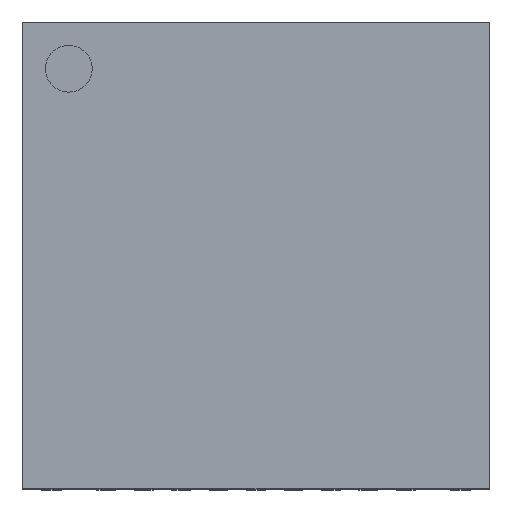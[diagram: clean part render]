
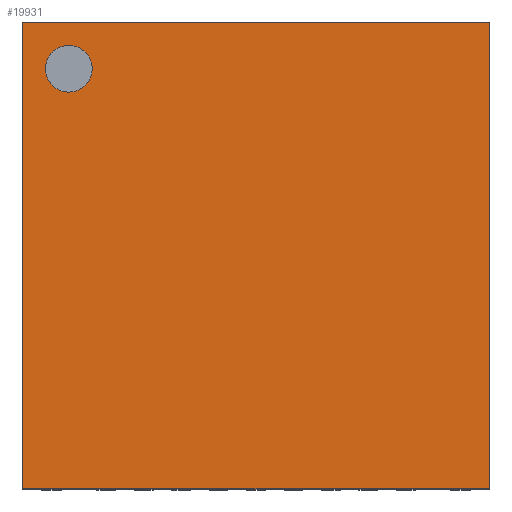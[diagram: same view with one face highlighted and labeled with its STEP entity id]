
A CAD part, top view. The second image highlights one B-rep face of the part: STEP entity #19931.
In plain terms, the highlighted planar face has unit normal (0, 0, 1).
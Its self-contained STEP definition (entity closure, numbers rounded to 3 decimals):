
#19819 = VERTEX_POINT('',#19820);
#19820 = CARTESIAN_POINT('',(0.01,4.99,0.55));
#19826 = EDGE_CURVE('',#19819,#19827,#19829,.T.);
#19827 = VERTEX_POINT('',#19828);
#19828 = CARTESIAN_POINT('',(4.99,4.99,0.55));
#19829 = LINE('',#19830,#19831);
#19830 = CARTESIAN_POINT('',(0.01,4.99,0.55));
#19831 = VECTOR('',#19832,1.);
#19832 = DIRECTION('',(1.,0.,0.));
#19859 = VERTEX_POINT('',#19860);
#19860 = CARTESIAN_POINT('',(0.01,0.01,0.55));
#19866 = EDGE_CURVE('',#19859,#19819,#19867,.T.);
#19867 = LINE('',#19868,#19869);
#19868 = CARTESIAN_POINT('',(0.01,0.01,0.55));
#19869 = VECTOR('',#19870,1.);
#19870 = DIRECTION('',(0.,1.,0.));
#19888 = EDGE_CURVE('',#19827,#19889,#19891,.T.);
#19889 = VERTEX_POINT('',#19890);
#19890 = CARTESIAN_POINT('',(4.99,0.01,0.55));
#19891 = LINE('',#19892,#19893);
#19892 = CARTESIAN_POINT('',(4.99,4.99,0.55));
#19893 = VECTOR('',#19894,1.);
#19894 = DIRECTION('',(0.,-1.,0.));
#19931 = ADVANCED_FACE('',(#19932,#19943),#19954,.F.);
#19932 = FACE_BOUND('',#19933,.F.);
#19933 = EDGE_LOOP('',(#19934,#19935,#19936,#19942));
#19934 = ORIENTED_EDGE('',*,*,#19826,.T.);
#19935 = ORIENTED_EDGE('',*,*,#19888,.T.);
#19936 = ORIENTED_EDGE('',*,*,#19937,.T.);
#19937 = EDGE_CURVE('',#19889,#19859,#19938,.T.);
#19938 = LINE('',#19939,#19940);
#19939 = CARTESIAN_POINT('',(4.99,0.01,0.55));
#19940 = VECTOR('',#19941,1.);
#19941 = DIRECTION('',(-1.,0.,0.));
#19942 = ORIENTED_EDGE('',*,*,#19866,.T.);
#19943 = FACE_BOUND('',#19944,.F.);
#19944 = EDGE_LOOP('',(#19945));
#19945 = ORIENTED_EDGE('',*,*,#19946,.T.);
#19946 = EDGE_CURVE('',#19947,#19947,#19949,.T.);
#19947 = VERTEX_POINT('',#19948);
#19948 = CARTESIAN_POINT('',(0.75,4.5,0.55));
#19949 = CIRCLE('',#19950,0.25);
#19950 = AXIS2_PLACEMENT_3D('',#19951,#19952,#19953);
#19951 = CARTESIAN_POINT('',(0.5,4.5,0.55));
#19952 = DIRECTION('',(0.,0.,1.));
#19953 = DIRECTION('',(1.,0.,-0.));
#19954 = PLANE('',#19955);
#19955 = AXIS2_PLACEMENT_3D('',#19956,#19957,#19958);
#19956 = CARTESIAN_POINT('',(2.5,2.5,0.55));
#19957 = DIRECTION('',(-0.,-0.,-1.));
#19958 = DIRECTION('',(-1.,0.,0.));
